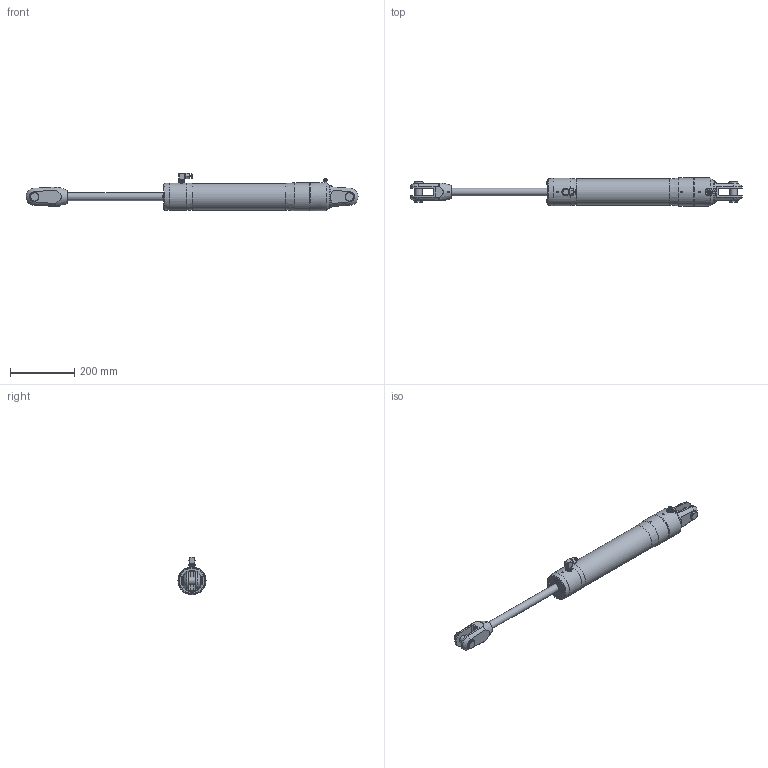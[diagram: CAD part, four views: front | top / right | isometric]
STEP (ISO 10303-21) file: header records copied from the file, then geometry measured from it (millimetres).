
FILE_DESCRIPTION(/* description */ (''),/* implementation_level */ '2;1');
FILE_NAME(/* name */ 'Q:\AA BRAND HYDRAULICS\HYDRAULICS FAMILY DIRECTORY\HYDRAULICS\CYLINDERS\RAMS\STAINLESS - STANDARD SINGLE ACTING (-0006 To -0260)\RSS-0030-S0300-NP-71\RSS-0030-S0300-NP-71 (Open).stp',/* time_stamp */ '2018-02-07T15:21:20+00:00',/* author */ ('Lorena'),/* organization */ (''),/* preprocessor_version */ 'ST-DEVELOPER v17',/* originating_system */ 'Autodesk Inventor 2018',/* authorisation */ '');
FILE_SCHEMA (('AUTOMOTIVE_DESIGN { 1 0 10303 214 3 1 1 }'));
Length unit declared in the file: millimetre
Products named in the file (1): RSS-0030-S0300-NP-71 (Open)
Bounding box: 1035.41 x 87.6 x 117.4 mm (x, y, z)
Volume: 3436750.1 mm3; surface area: 230197.9 mm2
Topology: 2 solids, 4 shells, 1768 faces, 4763 edges, 3152 vertices
Faces by surface type: plane 999, bspline 574, cone 111, cylinder 76, torus 4, sphere 4
Full cylindrical faces by diameter (mm): 4 x1, 4.134 x1, 4.4 x1, 5 x1, 5.1 x1, 7 x1, 9 x1, 10 x2, 11.11 x1, 11.157 x1, 11.5 x1, 11.8 x1, 12 x1, 12.157 x1, 13 x1, 13.157 x2, 14.5 x2, 16 x2, 18.3 x3, 22 x1, 22.23 x2, 24 x1, 26 x1, 27.788 x2, 34.48 x1, 34.484 x1, 81 x1, 82.6 x1, 85.6 x1, 86.6 x1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
Entity records: 63194 total; most frequent: CARTESIAN_POINT 21108, ORIENTED_EDGE 9510, DIRECTION 6222, EDGE_CURVE 4755, VERTEX_POINT 3154, LINE 2954, VECTOR 2954, EDGE_LOOP 1935
